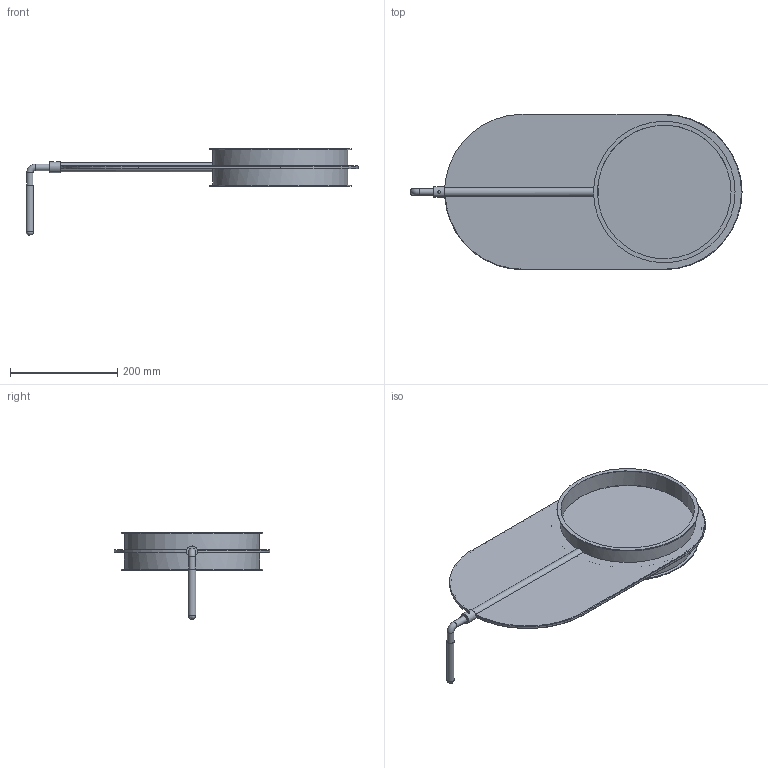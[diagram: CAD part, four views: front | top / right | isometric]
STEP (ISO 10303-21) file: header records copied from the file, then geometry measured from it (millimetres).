
FILE_DESCRIPTION((''),'2;1');
FILE_NAME('U:\Wolfgang\Marcel-3D\fertig\Kapitel 9\2511077.stp','2011-10-11T13:06:13',('iwienholt'),(''),'Autodesk Inventor 2010','Autodesk Inventor 2010','');
FILE_SCHEMA(('AUTOMOTIVE_DESIGN { 1 0 10303 214 1 1 1 1 }'));
Length unit declared in the file: millimetre
Products named in the file (3): 2511077; 2511077-1; Hebel-Ronde DN250
Assembly tree (2 placements, depth 2):
  2511077
    2511077-1
    Hebel-Ronde DN250
Bounding box: 619.38 x 290 x 161.95 mm (x, y, z)
Volume: 642749.6 mm3; surface area: 653360.5 mm2
Topology: 2 solids, 2 shells, 49 faces, 125 edges, 80 vertices
Faces by surface type: cylinder 24, plane 19, torus 5, sphere 1
Full cylindrical faces by diameter (mm): 4.917 x1, 12 x2, 12.5 x1, 14 x1, 16.5 x1, 20 x1, 249 x2, 252 x2, 264 x2
Entity records: 1638 total; most frequent: CARTESIAN_POINT 481, DIRECTION 234, ORIENTED_EDGE 196, AXIS2_PLACEMENT_3D 100, EDGE_CURVE 98, EDGE_LOOP 72, VERTEX_POINT 70, FACE_OUTER_BOUND 49
